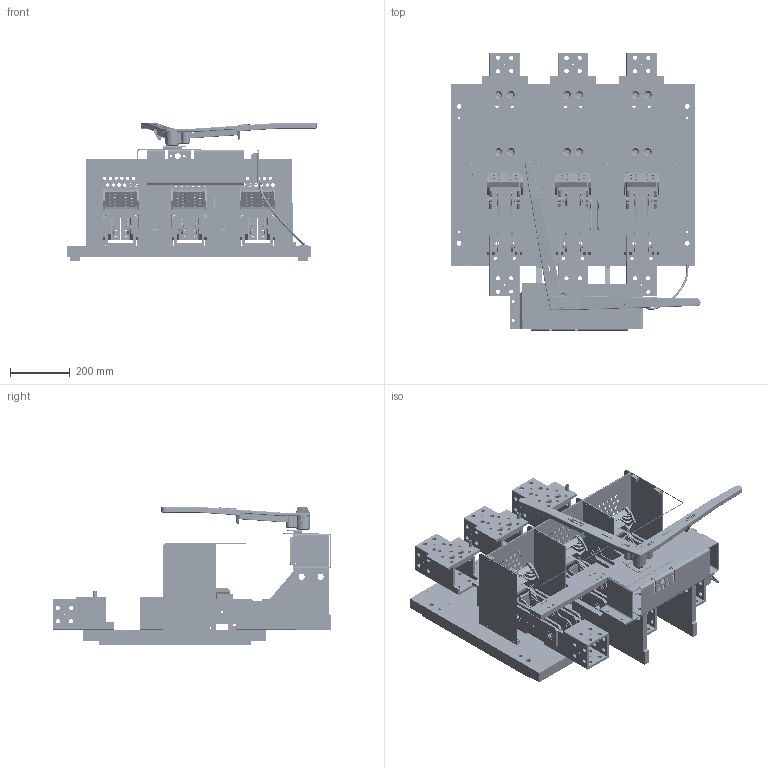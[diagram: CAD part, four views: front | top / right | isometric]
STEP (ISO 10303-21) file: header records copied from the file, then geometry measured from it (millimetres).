
FILE_DESCRIPTION(/* description */ (''),/* implementation_level */ '2;1');
FILE_NAME(/* name */ 'H:\switches\3d-templates\catalog-switches-iges-files\catalog-SLB3413.stp',/* time_stamp */ '2022-03-18T10:50:49-05:00',/* author */ ('MKingston'),/* organization */ (''),/* preprocessor_version */ 'ST-DEVELOPER v18.1',/* originating_system */ 'Autodesk Inventor 2022',/* authorisation */ '');
FILE_SCHEMA (('AUTOMOTIVE_DESIGN { 1 0 10303 214 3 1 1 }'));
Products named in the file (40): catalog-SLB3413; 727; 701-b; 702-CN; 703-b; 704; CATALOG-4000-blade-assy; 705-b; 705-a; 705-c; 67-j; 69-gc3; 69-gd3; 67-fc3; 68-M; 237; 230-a; 708-arc-chute-assy; 50-ql; 50-qr; 709; 246-f; 257-c; 672-a; slb-barrier-assembly; 257-b; 257-d; 178-c; 178-b; 820-bw1; 221-RP,R3; 820-fw3; 672-E; wire-connector; SLB3413.Harness1; SLB3413.Harness1_1; 67-ZBA; 223-d-transparent; 223-d-transparent-red; 223-FE
Assembly tree (74 placements, depth 3):
  catalog-SLB3413
    727
    701-b  x3
    702-CN  x3
    703-b  x3
    704  x6
    CATALOG-4000-blade-assy  x3
      705-c
      705-b
      67-j
      705-a
      67-fc3
      69-gc3
      69-gd3
      68-M
    237
    230-a
    708-arc-chute-assy  x3
      50-ql
      50-qr
      709
    246-f  x2
    257-c
    672-a  x2
    slb-barrier-assembly
      257-b  x4
      257-d
      178-c  x4
      178-b  x4
    820-bw1
    221-RP,R3
    820-fw3
    672-E
    wire-connector  x2
    SLB3413.Harness1
      SLB3413.Harness1_1
    67-ZBA  x3
    223-d-transparent
    223-d-transparent-red
    223-FE
Bounding box: 831.81 x 928.4 x 461.49 mm (x, y, z)
Volume: 32653232.7 mm3; surface area: 5519250.9 mm2
Topology: 98 solids, 102 shells, 3931 faces, 10510 edges, 6895 vertices
Faces by surface type: plane 1842, cylinder 1778, bspline 165, cone 86, torus 60
Full cylindrical faces by diameter (mm): 1.702 x8, 3.302 x14, 3.454 x4, 3.556 x8, 3.569 x14, 3.683 x4, 3.962 x4, 4.343 x84, 4.496 x36, 4.762 x4, 4.775 x8, 4.801 x4, 4.902 x8, 4.928 x16, 4.978 x30, 5.08 x2, 5.537 x2, 5.556 x1, 5.563 x6, 5.791 x12, 6.35 x10, 6.528 x49, 7.144 x12, 7.798 x6, 7.938 x6, 8.331 x2, 8.687 x2, 8.738 x2, 9.525 x3, 9.601 x2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
Entity records: 74114 total; most frequent: CARTESIAN_POINT 20153, ORIENTED_EDGE 10716, DIRECTION 10709, EDGE_CURVE 5365, AXIS2_PLACEMENT_3D 3838, VERTEX_POINT 3511, LINE 3033, VECTOR 3033
